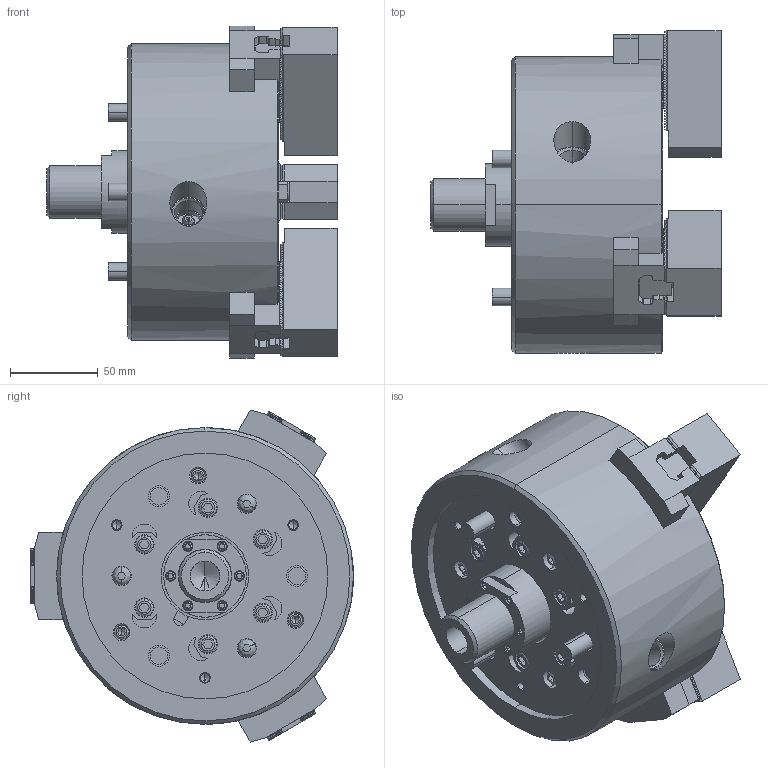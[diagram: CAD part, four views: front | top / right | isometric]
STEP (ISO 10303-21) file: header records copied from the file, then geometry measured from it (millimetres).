
FILE_DESCRIPTION (( 'STEP AP214' ), '1' );
FILE_NAME ('ML06_61P245442-6_UC.STEP', '2020-04-01T03:18:04', ( '' ), ( '' ), 'SwSTEP 2.0', 'SolidWorks 2017', '' );
FILE_SCHEMA (( 'AUTOMOTIVE_DESIGN' ));
Length unit declared in the file: millimetre
Products named in the file (5): Bアナツキ M10×25; 61P302540_SOFT JAW; 61P447483_T NUT; ML06_61P245442-6_UC; ML06_BASE^61P245442_ML06
Assembly tree (13 placements, depth 2):
  ML06_61P245442-6_UC
    61P447483_T NUT  x3
    61P302540_SOFT JAW  x3
    Bアナツキ M10×25  x6
    ML06_BASE^61P245442_ML06
Bounding box: 165.2 x 183.79 x 189.02 mm (x, y, z)
Volume: 202283.6 mm3; surface area: 238614.1 mm2
Topology: 12 solids, 19 shells, 2697 faces, 7335 edges, 4787 vertices
Faces by surface type: plane 2110, cylinder 288, cone 150, bspline 149
Entity records: 71642 total; most frequent: CARTESIAN_POINT 17450, ORIENTED_EDGE 10881, DIRECTION 9595, EDGE_CURVE 5442, VECTOR 4343, LINE 4343, VERTEX_POINT 3552, AXIS2_PLACEMENT_3D 2626
